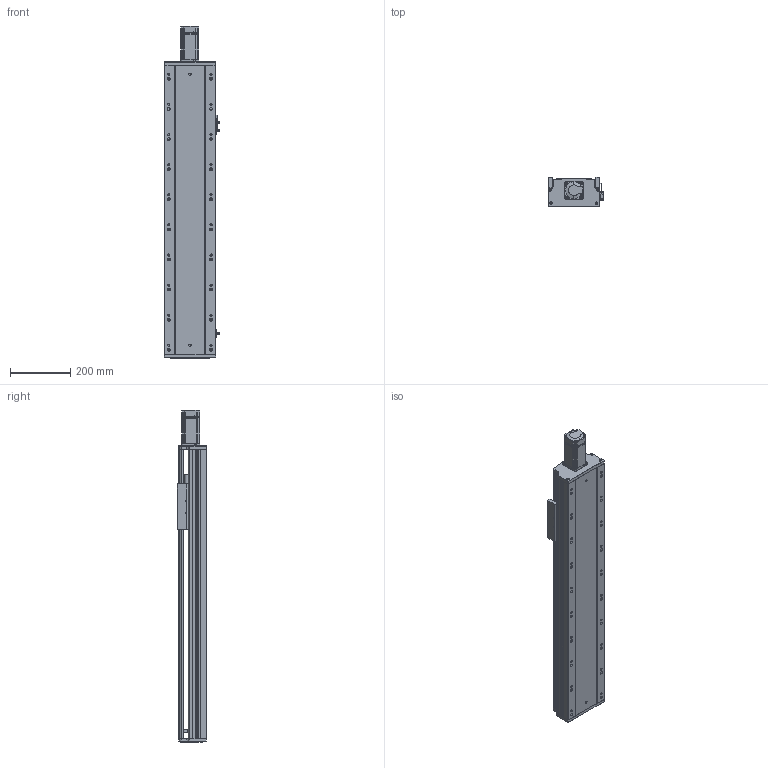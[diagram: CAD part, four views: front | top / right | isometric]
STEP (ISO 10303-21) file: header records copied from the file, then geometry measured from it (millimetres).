
FILE_DESCRIPTION (( 'STEP AP203' ), '1' );
FILE_NAME ('RY170-L2020-300-MK.SLDASM_650.step', '2021-02-20T03:50:51', ( '盈信电脑' ), ( '东莞市道滘镇水果街19号' ), 'SwSTEP 2.0', 'SolidWorks 2012', '' );
FILE_SCHEMA (( 'CONFIG_CONTROL_DESIGN' ));
Length unit declared in the file: millimetre
Products named in the file (12): RY170臏賑輸20佪裝蹟譫; RY170-300倰第裔啣-MK_650; 侂狟400W侜督萇儂; 15; RY170-L2020-300-MK.SLDASM_650; RY170ヶ醱裔啣; 滅袉蝶18-28; RY170外置感应片(200共用）; 滅袉蝶18-10; 覜茼ん672; RY170綴裔啣; RY170-300倰第菁釱-MK_650
Assembly tree (13 placements, depth 3):
  RY170-L2020-300-MK.SLDASM_650
    RY170-300倰第菁釱-MK_650
    RY170-300倰第裔啣-MK_650
    RY170臏賑輸20佪裝蹟譫
    侂狟400W侜督萇儂
      15
    RY170綴裔啣
    覜茼ん672  x3
    RY170外置感应片(200共用）
    RY170ヶ醱裔啣
    滅袉蝶18-28
    滅袉蝶18-10
Bounding box: 183.7 x 97 x 1102.5 mm (x, y, z)
Volume: 5234751.1 mm3; surface area: 1658776.5 mm2
Topology: 12 solids, 12 shells, 2176 faces, 6312 edges, 4086 vertices
Faces by surface type: plane 1166, cylinder 814, cone 167, bspline 29
Entity records: 70241 total; most frequent: CARTESIAN_POINT 15985, ORIENTED_EDGE 11428, DIRECTION 10697, EDGE_CURVE 5714, VERTEX_POINT 3766, LINE 3617, VECTOR 3617, AXIS2_PLACEMENT_3D 3540
